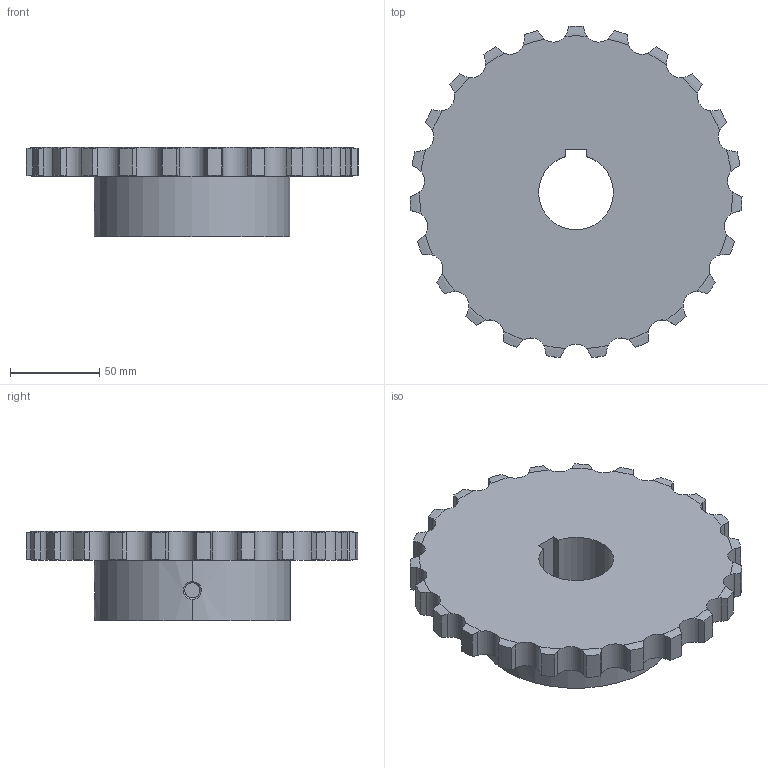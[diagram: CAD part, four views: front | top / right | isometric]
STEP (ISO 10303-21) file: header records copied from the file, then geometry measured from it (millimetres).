
FILE_DESCRIPTION((''),'2;1');
FILE_NAME('510-501-4223_PRT','2021-02-13T',('Brieden'),('Brieden'),'PRO/ENGINEER BY PARAMETRIC TECHNOLOGY CORPORATION, 2010160','PRO/ENGINEER BY PARAMETRIC TECHNOLOGY CORPORATION, 2010160','');
FILE_SCHEMA(('AUTOMOTIVE_DESIGN { 1 0 10303 214 1 1 1 1 }'));
Length unit declared in the file: millimetre
Products named in the file (1): 510-501-4223_PRT
Bounding box: 186.47 x 186.11 x 50 mm (x, y, z)
Volume: 652941.4 mm3; surface area: 78455.4 mm2
Topology: 1 solids, 1 shells, 159 faces, 459 edges, 304 vertices
Faces by surface type: cylinder 99, torus 46, plane 8, bspline 6
Entity records: 7898 total; most frequent: CARTESIAN_POINT 2529, ORIENTED_EDGE 918, DIRECTION 717, PRESENTATION_STYLE_ASSIGNMENT 460, STYLED_ITEM 460, CURVE_STYLE 459, EDGE_CURVE 459, VERTEX_POINT 304
